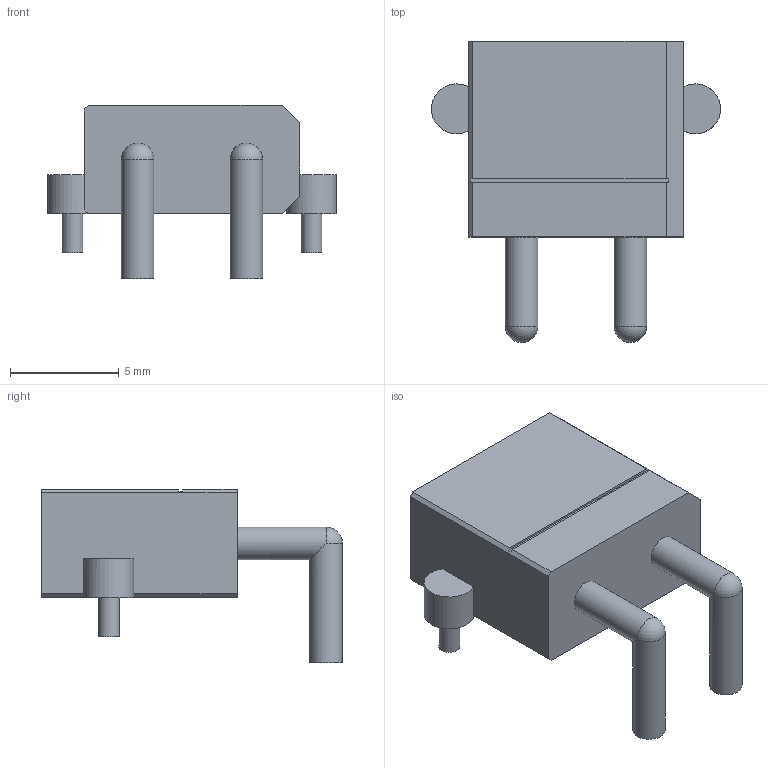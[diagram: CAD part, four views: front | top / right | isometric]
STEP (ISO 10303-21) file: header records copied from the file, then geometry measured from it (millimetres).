
FILE_DESCRIPTION(('Open CASCADE Model'),'2;1');
FILE_NAME('Open CASCADE Shape Model','2026-10-30T11:29:00',('Author'),( 'Open CASCADE'),'Open CASCADE STEP processor 7.9','Open CASCADE 7.9' ,'Unknown');
FILE_SCHEMA(('AUTOMOTIVE_DESIGN { 1 0 10303 214 1 1 1 1 }'));
Length unit declared in the file: millimetre
Products named in the file (4): AMASS_XT30PW_M_DRAWING_BASED_VISUAL; Housing; Contact_1; Contact_2
Assembly tree (3 placements, depth 2):
  AMASS_XT30PW_M_DRAWING_BASED_VISUAL
    Housing
    Contact_1
    Contact_2
Bounding box: 13.3 x 13.85 x 8 mm (x, y, z)
Volume: 355 mm3; surface area: 795.8 mm2
Topology: 3 solids, 3 shells, 68 faces, 168 edges, 110 vertices
Faces by surface type: plane 52, cylinder 14, sphere 2
Full cylindrical faces by diameter (mm): 0.96 x2, 1.5 x6, 1.96 x2, 2.3 x1, 4.16 x2
Entity records: 4194 total; most frequent: CARTESIAN_POINT 866, DIRECTION 571, ORIENTED_EDGE 332, PCURVE 332, DEFINITIONAL_REPRESENTATION 332, LINE 283, VECTOR 283, EDGE_CURVE 166
